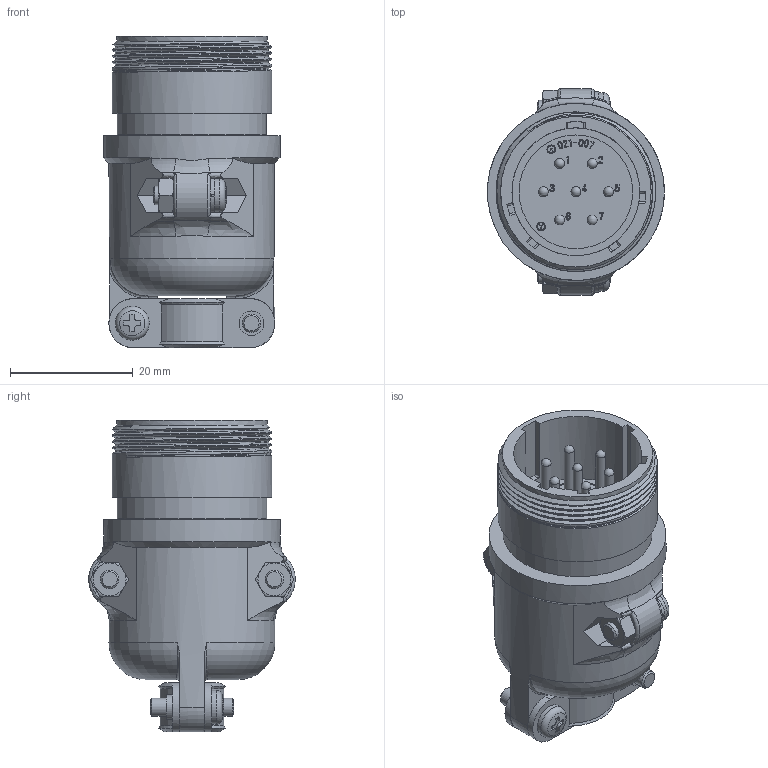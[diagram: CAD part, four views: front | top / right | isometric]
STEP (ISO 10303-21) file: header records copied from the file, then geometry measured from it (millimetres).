
FILE_DESCRIPTION (( 'STEP AP203' ), '1' );
FILE_NAME ('JMCR2107M-D.STEP', '2021-06-25T12:06:02', ( '' ), ( '' ), 'SwSTEP 2.0', 'SolidWorks 2018', '' );
FILE_SCHEMA (( 'CONFIG_CONTROL_DESIGN' ));
Length unit declared in the file: millimetre
Products named in the file (1): JMCR2107M-D
Bounding box: 28.76 x 33.57 x 50.7 mm (x, y, z)
Volume: 12375.8 mm3; surface area: 10692.7 mm2
Topology: 1 solids, 5 shells, 916 faces, 2505 edges, 1641 vertices
Faces by surface type: plane 435, bspline 259, cylinder 144, torus 36, cone 31, sphere 11
Full cylindrical faces by diameter (mm): 1.2 x3, 1.4 x3, 1.6 x7, 1.7 x7, 2.4 x11, 3 x8, 3.3 x2, 3.5 x2, 4 x2, 5.5 x2, 12 x1, 18.1 x1, 18.5 x1, 20.6 x1, 20.8 x1, 22.8 x1, 23 x1, 24.3 x1, 24.5 x1, 25.96 x4, 27 x1, 28.8 x1
Entity records: 39707 total; most frequent: CARTESIAN_POINT 19185, ORIENTED_EDGE 4674, DIRECTION 3325, EDGE_CURVE 2337, VERTEX_POINT 1577, LINE 1235, VECTOR 1235, EDGE_LOOP 1064
